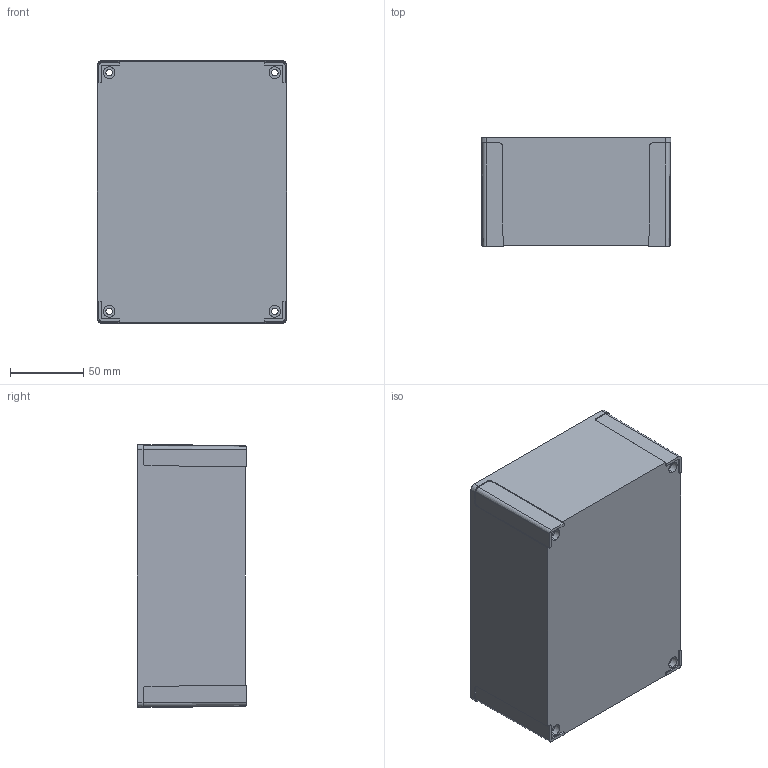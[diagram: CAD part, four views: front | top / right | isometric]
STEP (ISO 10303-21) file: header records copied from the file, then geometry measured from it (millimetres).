
FILE_DESCRIPTION (( 'STEP AP214' ), '1' );
FILE_NAME ('FIBOX_MNX150XHB.STEP', '2012-07-13T09:08:51', ( 'KennethW' ), ( 'Microsoft' ), 'SwSTEP 2.0', 'SolidWorks 2011', '' );
FILE_SCHEMA (( 'AUTOMOTIVE_DESIGN' ));
Length unit declared in the file: millimetre
Products named in the file (1): FIBOX_MNX150XHB
Bounding box: 130.1 x 75 x 180.1 mm (x, y, z)
Volume: 280101.7 mm3; surface area: 142665.6 mm2
Topology: 1 solids, 1 shells, 338 faces, 845 edges, 558 vertices
Faces by surface type: plane 206, cylinder 108, cone 24
Entity records: 10175 total; most frequent: CARTESIAN_POINT 1850, DIRECTION 1747, ORIENTED_EDGE 1690, EDGE_CURVE 845, AXIS2_PLACEMENT_3D 595, VERTEX_POINT 558, VECTOR 557, LINE 557
